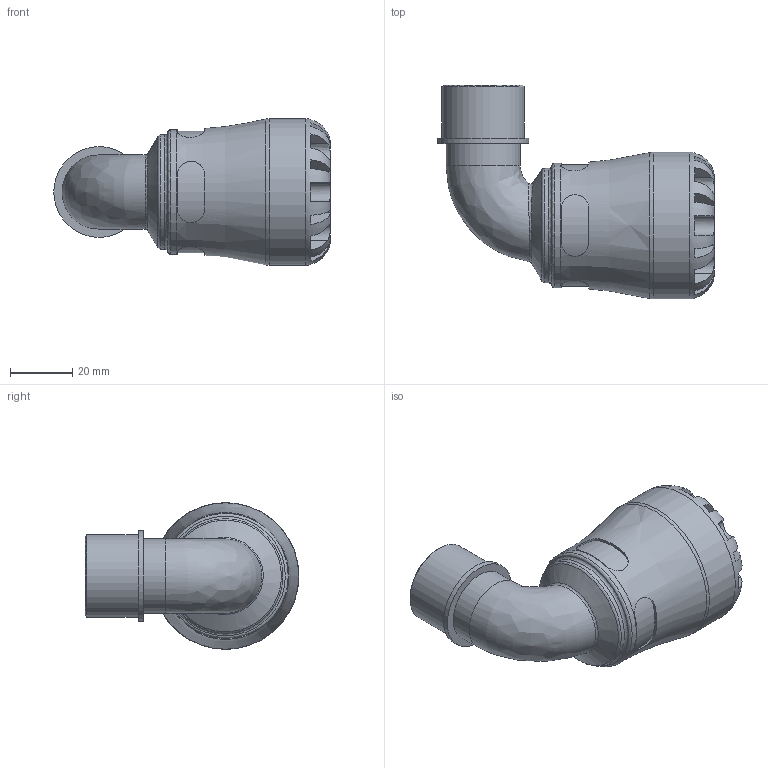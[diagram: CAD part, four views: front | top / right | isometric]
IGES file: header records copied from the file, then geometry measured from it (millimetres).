
Global section: file name: 108500025007_198500025007.ipt; native system: Autodesk Inventor 2015; preprocessor: unknown; author: KIM; date: 20190127.091409; units: millimetre
Bounding box: 88.54 x 68.5 x 47 mm (x, y, z)
Volume: 65694.4 mm3; surface area: 22619.9 mm2
Topology: 1 solids, 1 shells, 110 faces, 278 edges, 176 vertices
Faces by surface type: plane 61, revolution 26, cylinder 18, bspline 4, cone 1
Full cylindrical faces by diameter (mm): 23.797 x1, 26.441 x1, 29.085 x1, 36.66 x1, 39.95 x1, 47 x1
